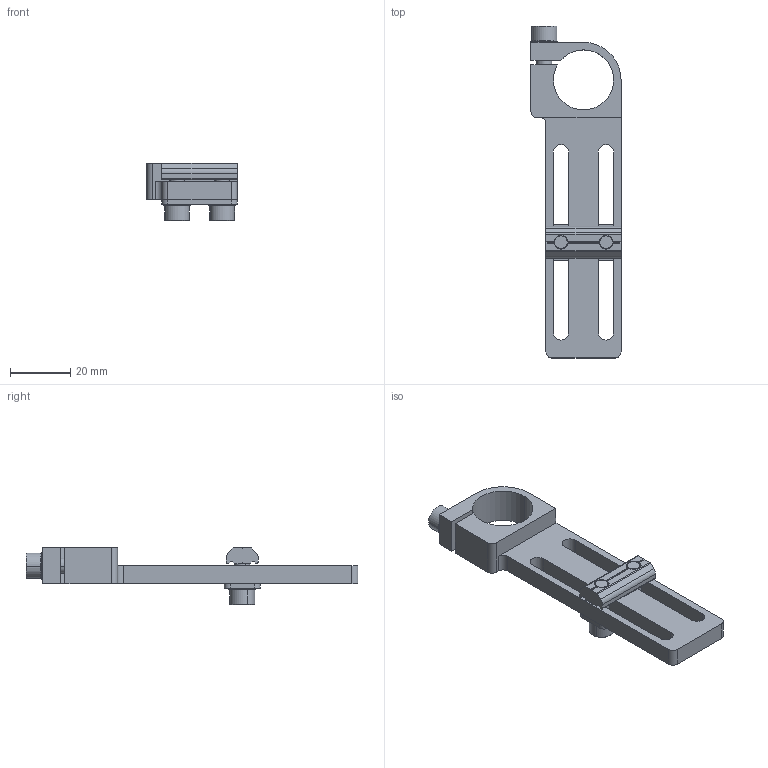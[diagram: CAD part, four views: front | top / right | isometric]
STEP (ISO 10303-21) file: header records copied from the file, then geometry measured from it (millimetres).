
FILE_DESCRIPTION (( 'STEP AP214' ), '1' );
FILE_NAME ('SMBE1-2060T.STEP', '2023-03-03T01:15:55', ( 'Windows User' ), ( 'P R C' ), 'SwSTEP 2.0', 'SolidWorks 2019', '' );
FILE_SCHEMA (( 'AUTOMOTIVE_DESIGN' ));
Length unit declared in the file: millimetre
Products named in the file (1): SMBE1-2060T
Bounding box: 30 x 110.45 x 19 mm (x, y, z)
Volume: 15371.6 mm3; surface area: 11934.3 mm2
Topology: 9 solids, 9 shells, 649 faces, 1884 edges, 1250 vertices
Faces by surface type: plane 561, cylinder 70, cone 18
Entity records: 28941 total; most frequent: CARTESIAN_POINT 3976, DIRECTION 3782, ORIENTED_EDGE 3768, EDGE_CURVE 1884, AXIS2_PLACEMENT_3D 1280, VERTEX_POINT 1250, LINE 1222, VECTOR 1222
